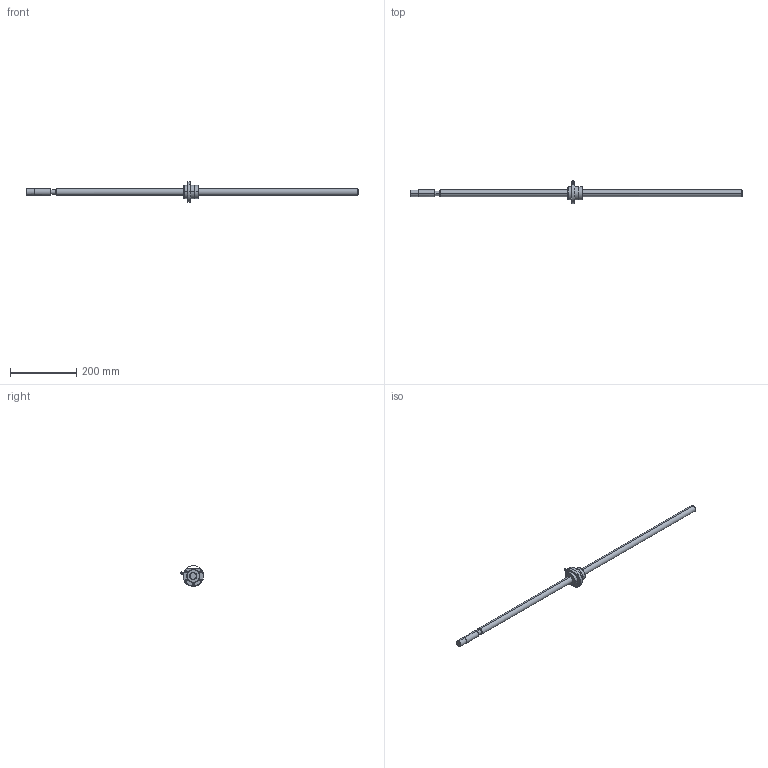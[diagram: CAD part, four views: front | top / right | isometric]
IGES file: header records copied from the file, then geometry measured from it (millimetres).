
Global section: file name: No Iges File Name specified; native system: AutoDesk Inventor R10; preprocessor: AutoDesk Inventor Iges Exporter R10; author: No Author specified; organization: No Organization specified; date: 20101224.134307; units: millimetre
Bounding box: 1000 x 69.81 x 62 mm (x, y, z)
Surface area: 79067.4 mm2 (no closed solid volume)
Topology: 0 solids, 0 shells, 74 faces, 483 edges, 479 vertices
Faces by surface type: bspline 74
